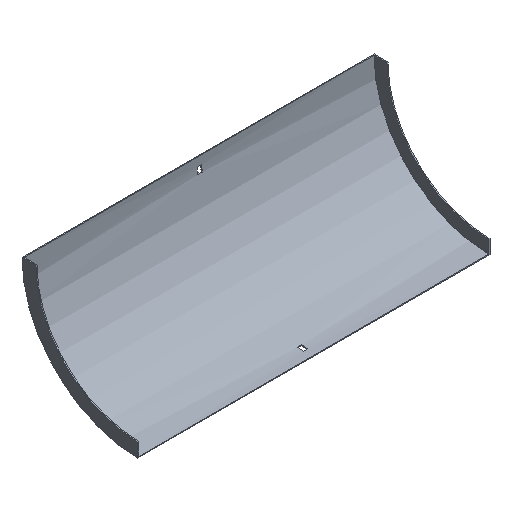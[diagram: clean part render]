
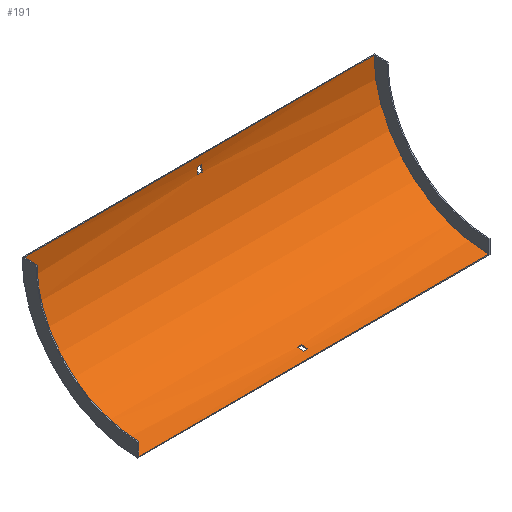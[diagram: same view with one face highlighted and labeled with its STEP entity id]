
A CAD part, isometric view. The second image highlights one B-rep face of the part: STEP entity #191.
In plain terms, the highlighted cylindrical face has radius 165.5 mm (diameter 331 mm), a partial arc.
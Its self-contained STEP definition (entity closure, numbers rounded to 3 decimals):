
#1 = CARTESIAN_POINT ( 'NONE',  ( 253.5, -1.936, -12. ) ) ;
#8 = CARTESIAN_POINT ( 'NONE',  ( -3.25, -167., 0. ) ) ;
#11 = DIRECTION ( 'NONE',  ( 0., 0., 1. ) ) ;
#12 = EDGE_CURVE ( 'NONE', #466, #536, #530, .T. ) ;
#13 = VERTEX_POINT ( 'NONE', #447 ) ;
#16 = AXIS2_PLACEMENT_3D ( 'NONE', #261, #528, #169 ) ;
#22 = ORIENTED_EDGE ( 'NONE', *, *, #535, .T. ) ;
#29 = CARTESIAN_POINT ( 'NONE',  ( -3.25, -167., 0. ) ) ;
#51 = FACE_BOUND ( 'NONE', #559, .T. ) ;
#52 = VECTOR ( 'NONE', #584, 1000. ) ;
#55 = DIRECTION ( 'NONE',  ( 0., 0., 1. ) ) ;
#56 = EDGE_CURVE ( 'NONE', #13, #488, #302, .T. ) ;
#58 = CARTESIAN_POINT ( 'NONE',  ( -3.25, -155., -165.064 ) ) ;
#60 = DIRECTION ( 'NONE',  ( 1., 0., 0. ) ) ;
#62 = AXIS2_PLACEMENT_3D ( 'NONE', #223, #405, #595 ) ;
#76 = EDGE_CURVE ( 'NONE', #499, #138, #111, .T. ) ;
#79 = DIRECTION ( 'NONE',  ( -1., 0., 0. ) ) ;
#80 = CARTESIAN_POINT ( 'NONE',  ( 3.25, -155., -165.064 ) ) ;
#84 = CIRCLE ( 'NONE', #442, 165.5 ) ;
#93 = VECTOR ( 'NONE', #148, 1000. ) ;
#95 = LINE ( 'NONE', #1, #583 ) ;
#101 = ORIENTED_EDGE ( 'NONE', *, *, #208, .T. ) ;
#102 = LINE ( 'NONE', #340, #153 ) ;
#111 = LINE ( 'NONE', #349, #420 ) ;
#138 = VERTEX_POINT ( 'NONE', #577 ) ;
#142 = CARTESIAN_POINT ( 'NONE',  ( 252., -1.5, 0. ) ) ;
#148 = DIRECTION ( 'NONE',  ( -1., 0., 0. ) ) ;
#150 = CARTESIAN_POINT ( 'NONE',  ( 253.5, -167., 0. ) ) ;
#151 = LINE ( 'NONE', #387, #421 ) ;
#152 = VERTEX_POINT ( 'NONE', #80 ) ;
#153 = VECTOR ( 'NONE', #200, 1000. ) ;
#157 = DIRECTION ( 'NONE',  ( -1., 0., 0. ) ) ;
#163 = CARTESIAN_POINT ( 'NONE',  ( -3.25, -1.936, -12. ) ) ;
#169 = DIRECTION ( 'NONE',  ( 0., 0., 1. ) ) ;
#171 = VERTEX_POINT ( 'NONE', #58 ) ;
#175 = CARTESIAN_POINT ( 'NONE',  ( 3.25, -167., 0. ) ) ;
#191 = ADVANCED_FACE ( 'NONE', ( #51, #206, #574 ), #427, .F. ) ;
#200 = DIRECTION ( 'NONE',  ( -1., 0., 0. ) ) ;
#206 = FACE_OUTER_BOUND ( 'NONE', #607, .T. ) ;
#208 = EDGE_CURVE ( 'NONE', #138, #152, #452, .T. ) ;
#209 = ORIENTED_EDGE ( 'NONE', *, *, #337, .F. ) ;
#211 = DIRECTION ( 'NONE',  ( 1., 0., 0. ) ) ;
#214 = DIRECTION ( 'NONE',  ( 1., 0., 0. ) ) ;
#217 = DIRECTION ( 'NONE',  ( 0., 0., -1. ) ) ;
#218 = ORIENTED_EDGE ( 'NONE', *, *, #571, .T. ) ;
#222 = CARTESIAN_POINT ( 'NONE',  ( 3.25, -2.838, -21. ) ) ;
#223 = CARTESIAN_POINT ( 'NONE',  ( -252., -167., 0. ) ) ;
#228 = EDGE_CURVE ( 'NONE', #171, #499, #411, .T. ) ;
#231 = CARTESIAN_POINT ( 'NONE',  ( 252., -167., -165.5 ) ) ;
#233 = EDGE_CURVE ( 'NONE', #466, #344, #102, .T. ) ;
#241 = DIRECTION ( 'NONE',  ( -1., 0., 0. ) ) ;
#243 = ORIENTED_EDGE ( 'NONE', *, *, #233, .F. ) ;
#261 = CARTESIAN_POINT ( 'NONE',  ( 252., -167., 0. ) ) ;
#273 = EDGE_CURVE ( 'NONE', #363, #13, #277, .T. ) ;
#277 = CIRCLE ( 'NONE', #345, 165.5 ) ;
#298 = DIRECTION ( 'NONE',  ( 0., 0., 1. ) ) ;
#302 = LINE ( 'NONE', #390, #52 ) ;
#311 = CARTESIAN_POINT ( 'NONE',  ( -3.25, -146., -164.162 ) ) ;
#312 = ORIENTED_EDGE ( 'NONE', *, *, #12, .T. ) ;
#316 = ORIENTED_EDGE ( 'NONE', *, *, #273, .F. ) ;
#330 = CARTESIAN_POINT ( 'NONE',  ( 3.25, -167., 0. ) ) ;
#335 = DIRECTION ( 'NONE',  ( -1., 0., 0. ) ) ;
#337 = EDGE_CURVE ( 'NONE', #488, #388, #84, .T. ) ;
#340 = CARTESIAN_POINT ( 'NONE',  ( 252., -167., -165.5 ) ) ;
#344 = VERTEX_POINT ( 'NONE', #494 ) ;
#345 = AXIS2_PLACEMENT_3D ( 'NONE', #29, #79, #298 ) ;
#349 = CARTESIAN_POINT ( 'NONE',  ( 253.5, -146., -164.162 ) ) ;
#351 = ORIENTED_EDGE ( 'NONE', *, *, #489, .F. ) ;
#363 = VERTEX_POINT ( 'NONE', #163 ) ;
#364 = CARTESIAN_POINT ( 'NONE',  ( 3.25, -1.936, -12. ) ) ;
#365 = ORIENTED_EDGE ( 'NONE', *, *, #76, .T. ) ;
#387 = CARTESIAN_POINT ( 'NONE',  ( 253.5, -155., -165.064 ) ) ;
#388 = VERTEX_POINT ( 'NONE', #364 ) ;
#390 = CARTESIAN_POINT ( 'NONE',  ( 253.5, -2.838, -21. ) ) ;
#405 = DIRECTION ( 'NONE',  ( 1., 0., 0. ) ) ;
#410 = ORIENTED_EDGE ( 'NONE', *, *, #598, .F. ) ;
#411 = CIRCLE ( 'NONE', #502, 165.5 ) ;
#419 = DIRECTION ( 'NONE',  ( 0., 0., -1. ) ) ;
#420 = VECTOR ( 'NONE', #211, 1000. ) ;
#421 = VECTOR ( 'NONE', #335, 1000. ) ;
#423 = DIRECTION ( 'NONE',  ( -1., 0., 0. ) ) ;
#427 = CYLINDRICAL_SURFACE ( 'NONE', #590, 165.5 ) ;
#432 = ORIENTED_EDGE ( 'NONE', *, *, #56, .F. ) ;
#442 = AXIS2_PLACEMENT_3D ( 'NONE', #175, #214, #217 ) ;
#447 = CARTESIAN_POINT ( 'NONE',  ( -3.25, -2.838, -21. ) ) ;
#452 = CIRCLE ( 'NONE', #511, 165.5 ) ;
#458 = VERTEX_POINT ( 'NONE', #548 ) ;
#465 = LINE ( 'NONE', #142, #93 ) ;
#466 = VERTEX_POINT ( 'NONE', #231 ) ;
#488 = VERTEX_POINT ( 'NONE', #222 ) ;
#489 = EDGE_CURVE ( 'NONE', #344, #458, #561, .T. ) ;
#494 = CARTESIAN_POINT ( 'NONE',  ( -252., -167., -165.5 ) ) ;
#499 = VERTEX_POINT ( 'NONE', #311 ) ;
#502 = AXIS2_PLACEMENT_3D ( 'NONE', #8, #60, #419 ) ;
#511 = AXIS2_PLACEMENT_3D ( 'NONE', #330, #423, #11 ) ;
#516 = EDGE_LOOP ( 'NONE', ( #22, #549, #365, #101 ) ) ;
#521 = CARTESIAN_POINT ( 'NONE',  ( 252., -1.5, 0. ) ) ;
#528 = DIRECTION ( 'NONE',  ( 1., 0., 0. ) ) ;
#530 = CIRCLE ( 'NONE', #16, 165.5 ) ;
#535 = EDGE_CURVE ( 'NONE', #152, #171, #151, .T. ) ;
#536 = VERTEX_POINT ( 'NONE', #521 ) ;
#548 = CARTESIAN_POINT ( 'NONE',  ( -252., -1.5, 0. ) ) ;
#549 = ORIENTED_EDGE ( 'NONE', *, *, #228, .T. ) ;
#559 = EDGE_LOOP ( 'NONE', ( #316, #410, #209, #432 ) ) ;
#561 = CIRCLE ( 'NONE', #62, 165.5 ) ;
#571 = EDGE_CURVE ( 'NONE', #536, #458, #465, .T. ) ;
#574 = FACE_BOUND ( 'NONE', #516, .T. ) ;
#577 = CARTESIAN_POINT ( 'NONE',  ( 3.25, -146., -164.162 ) ) ;
#583 = VECTOR ( 'NONE', #157, 1000. ) ;
#584 = DIRECTION ( 'NONE',  ( 1., 0., 0. ) ) ;
#590 = AXIS2_PLACEMENT_3D ( 'NONE', #150, #241, #55 ) ;
#595 = DIRECTION ( 'NONE',  ( 0., 0., 1. ) ) ;
#598 = EDGE_CURVE ( 'NONE', #388, #363, #95, .T. ) ;
#607 = EDGE_LOOP ( 'NONE', ( #351, #243, #312, #218 ) ) ;
